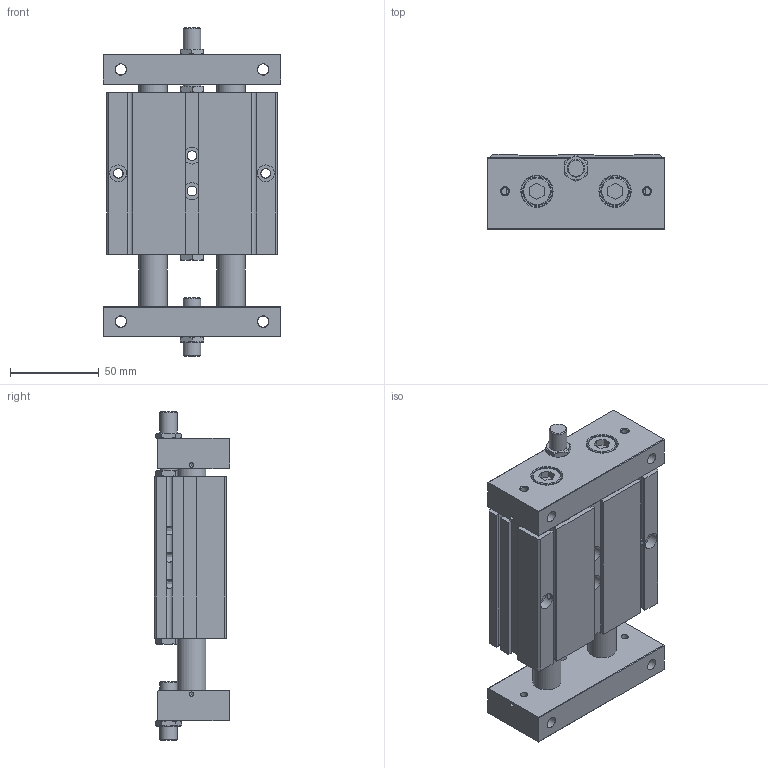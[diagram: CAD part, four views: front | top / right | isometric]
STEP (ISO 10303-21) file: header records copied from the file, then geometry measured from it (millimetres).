
FILE_DESCRIPTION((''),'2;1');
FILE_NAME('I:\3D電子目錄\氣缸\STU\STU\STU32\STU32x25.stp','2007-10-01T13:59:33',('Administrator'),(''),'Autodesk Inventor 11','Autodesk Inventor 11','');
FILE_SCHEMA(('AUTOMOTIVE_DESIGN { 1 0 10303 214 1 1 1 1 }'));
Length unit declared in the file: millimetre
Products named in the file (1): STU32
Bounding box: 100 x 42.5 x 185 mm (x, y, z)
Volume: 463511.6 mm3; surface area: 83135.2 mm2
Topology: 1 solids, 1 shells, 315 faces, 744 edges, 472 vertices
Faces by surface type: plane 145, cone 76, bspline 62, cylinder 28, torus 4
Full cylindrical faces by diameter (mm): 2.459 x2, 9.5 x4, 10 x4, 16 x6, 17.5 x4, 34 x2, 35.9 x2
Entity records: 9985 total; most frequent: CARTESIAN_POINT 3594, ORIENTED_EDGE 1220, DIRECTION 1212, EDGE_CURVE 610, EDGE_LOOP 518, AXIS2_PLACEMENT_3D 464, VERTEX_POINT 446, FACE_OUTER_BOUND 315
